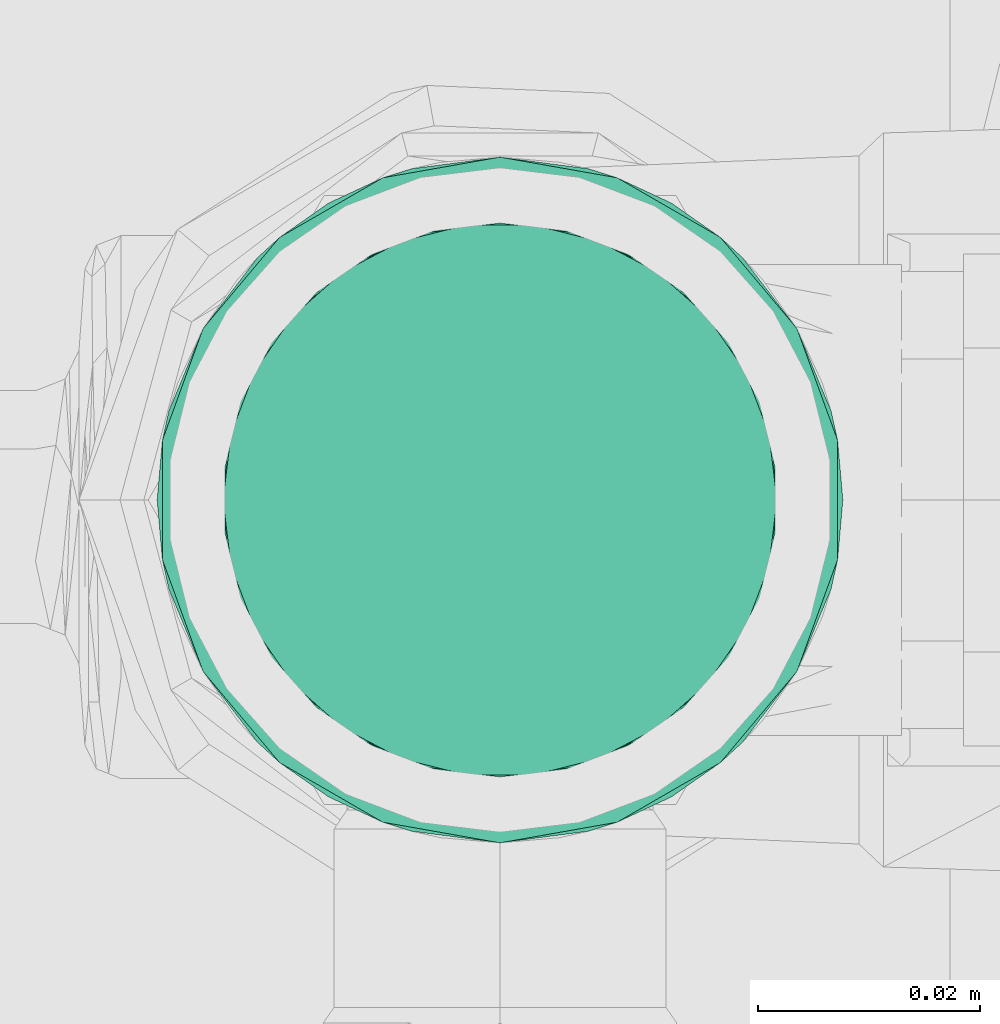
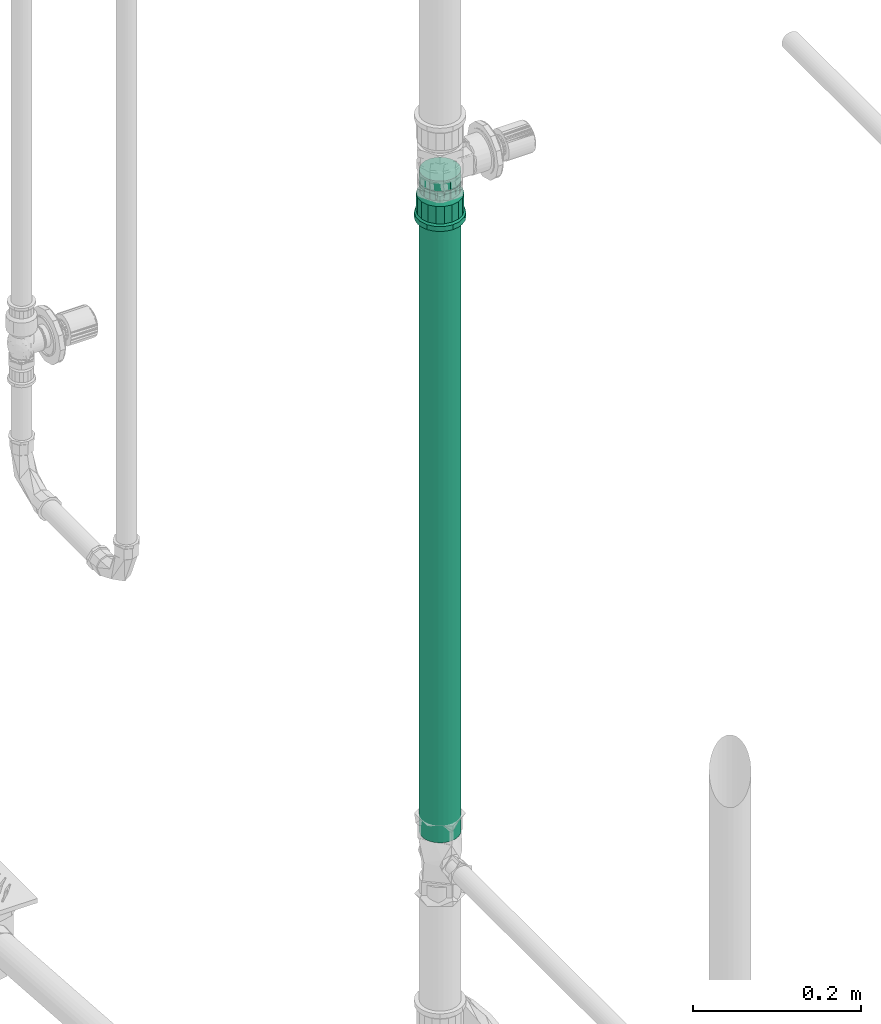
# One storey, part 89 of 589: 1 flow fitting, 1 flow segment.
"""IFC2X3 building model written with IfcOpenShell, lengths in millimetres."""

from ifc_helpers import new_model, entity, si_unit, converted_unit, derived_unit, direction, frame, frame_2d, origin, place, context, subcontext, project, spatial, circle, extrude, faceted_brep, source, transform, mapped, material, type_object, type_shapes, element, save


model = new_model("IFC2X3")

# Units and contexts
model_context = context("Model", 3, precision=0.01, world=origin(), true_north=direction((6.123031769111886e-17, 1.0)))
body_context = subcontext(model_context, "Body", "Model", "MODEL_VIEW")
ifc_project = project(units=[si_unit("LENGTHUNIT", "METRE", prefix="MILLI"), si_unit("AREAUNIT", "SQUARE_METRE"), si_unit("VOLUMEUNIT", "CUBIC_METRE"), converted_unit("PLANEANGLEUNIT", "DEGREE", entity("IfcRatioMeasure", 0.017453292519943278), si_unit("PLANEANGLEUNIT", "RADIAN"), dimensions=[0, 0, 0, 0, 0, 0, 0]), si_unit("MASSUNIT", "GRAM", prefix="KILO"), derived_unit("MASSDENSITYUNIT", [(si_unit("MASSUNIT", "GRAM", prefix="KILO"), 1), (si_unit("LENGTHUNIT", "METRE"), -3)]), derived_unit("IONCONCENTRATIONUNIT", [(si_unit("MASSUNIT", "GRAM", prefix="KILO"), 1), (si_unit("LENGTHUNIT", "METRE"), -3)]), derived_unit("MOMENTOFINERTIAUNIT", [(si_unit("LENGTHUNIT", "METRE"), 4)]), si_unit("TIMEUNIT", "SECOND"), si_unit("FREQUENCYUNIT", "HERTZ"), si_unit("THERMODYNAMICTEMPERATUREUNIT", "DEGREE_CELSIUS"), derived_unit("THERMALTRANSMITTANCEUNIT", [(si_unit("MASSUNIT", "GRAM", prefix="KILO"), 1), (si_unit("THERMODYNAMICTEMPERATUREUNIT", "KELVIN"), -1), (si_unit("TIMEUNIT", "SECOND"), -3)]), derived_unit("THERMALCONDUCTANCEUNIT", [(si_unit("MASSUNIT", "GRAM", prefix="KILO"), 1), (si_unit("THERMODYNAMICTEMPERATUREUNIT", "KELVIN"), -1), (si_unit("TIMEUNIT", "SECOND"), -3), (si_unit("LENGTHUNIT", "METRE"), 1)]), derived_unit("VOLUMETRICFLOWRATEUNIT", [(si_unit("LENGTHUNIT", "METRE"), 3), (si_unit("TIMEUNIT", "SECOND"), -1)]), derived_unit("MASSFLOWRATEUNIT", [(si_unit("MASSUNIT", "GRAM", prefix="KILO"), 1), (si_unit("TIMEUNIT", "SECOND"), -1)]), derived_unit("ROTATIONALFREQUENCYUNIT", [(si_unit("TIMEUNIT", "SECOND"), -1)]), si_unit("ELECTRICCURRENTUNIT", "AMPERE"), si_unit("ELECTRICVOLTAGEUNIT", "VOLT"), si_unit("POWERUNIT", "WATT"), si_unit("FORCEUNIT", "NEWTON", prefix="KILO"), si_unit("ILLUMINANCEUNIT", "LUX"), si_unit("LUMINOUSFLUXUNIT", "LUMEN"), si_unit("LUMINOUSINTENSITYUNIT", "CANDELA"), derived_unit("USERDEFINED", [(si_unit("MASSUNIT", "GRAM", prefix="KILO"), -1), (si_unit("LENGTHUNIT", "METRE"), -2), (si_unit("TIMEUNIT", "SECOND"), 3), (si_unit("LUMINOUSFLUXUNIT", "LUMEN"), 1)]), derived_unit("USERDEFINED", [(si_unit("MASSUNIT", "GRAM", prefix="KILO"), 1), (si_unit("TIMEUNIT", "SECOND"), -3), (si_unit("LENGTHUNIT", "METRE"), 3), (si_unit("ELECTRICCURRENTUNIT", "AMPERE"), -2)]), derived_unit("SOUNDPOWERUNIT", [(si_unit("MASSUNIT", "GRAM", prefix="KILO"), 1), (si_unit("TIMEUNIT", "SECOND"), -3), (si_unit("LENGTHUNIT", "METRE"), 2)]), derived_unit("SOUNDPRESSUREUNIT", [(si_unit("MASSUNIT", "GRAM", prefix="KILO"), 1), (si_unit("LENGTHUNIT", "METRE"), -1), (si_unit("TIMEUNIT", "SECOND"), -2)]), derived_unit("LINEARVELOCITYUNIT", [(si_unit("LENGTHUNIT", "METRE"), 1), (si_unit("TIMEUNIT", "SECOND"), -1)]), si_unit("PRESSUREUNIT", "PASCAL"), derived_unit("USERDEFINED", [(si_unit("MASSUNIT", "GRAM", prefix="KILO"), 1), (si_unit("LENGTHUNIT", "METRE"), -2), (si_unit("TIMEUNIT", "SECOND"), -2)]), derived_unit("LINEARFORCEUNIT", [(si_unit("MASSUNIT", "GRAM", prefix="KILO"), 1), (si_unit("TIMEUNIT", "SECOND"), -2)]), derived_unit("PLANARFORCEUNIT", [(si_unit("MASSUNIT", "GRAM", prefix="KILO"), 1), (si_unit("LENGTHUNIT", "METRE"), -1), (si_unit("TIMEUNIT", "SECOND"), -2)]), derived_unit("SPECIFICHEATCAPACITYUNIT", [(si_unit("THERMODYNAMICTEMPERATUREUNIT", "KELVIN"), -1), (si_unit("LENGTHUNIT", "METRE"), 2), (si_unit("TIMEUNIT", "SECOND"), -2)]), derived_unit("HEATINGVALUEUNIT", [(si_unit("LENGTHUNIT", "METRE"), 2), (si_unit("TIMEUNIT", "SECOND"), -2)]), derived_unit("VAPORPERMEABILITYUNIT", [(si_unit("LENGTHUNIT", "METRE"), -1), (si_unit("TIMEUNIT", "SECOND"), 1)]), derived_unit("DYNAMICVISCOSITYUNIT", [(si_unit("MASSUNIT", "GRAM", prefix="KILO"), 1), (si_unit("TIMEUNIT", "SECOND"), -1), (si_unit("LENGTHUNIT", "METRE"), -1)]), derived_unit("THERMALEXPANSIONCOEFFICIENTUNIT", [(si_unit("THERMODYNAMICTEMPERATUREUNIT", "KELVIN"), -1)]), derived_unit("MODULUSOFELASTICITYUNIT", [(si_unit("MASSUNIT", "GRAM", prefix="KILO"), 1), (si_unit("LENGTHUNIT", "METRE"), -1), (si_unit("TIMEUNIT", "SECOND"), -2)]), derived_unit("ISOTHERMALMOISTURECAPACITYUNIT", [(si_unit("LENGTHUNIT", "METRE"), 3), (si_unit("MASSUNIT", "GRAM", prefix="KILO"), -1)]), derived_unit("MOISTUREDIFFUSIVITYUNIT", [(si_unit("TIMEUNIT", "SECOND"), -1), (si_unit("LENGTHUNIT", "METRE"), 2)])], contexts=[model_context])

# Site, building, storey
site_placement = place(None, origin())
site = spatial("IfcSite", under=ifc_project, at=site_placement, Name="Default", CompositionType="ELEMENT")
building_placement = place(site_placement, origin())
building = spatial("IfcBuilding", under=site, at=building_placement, CompositionType="ELEMENT")
storey_placement = place(building_placement, frame((0.0, 0.0, 100.0)))
storey = spatial("IfcBuildingStorey", under=building, at=storey_placement, Name="TÉRREO", CompositionType="ELEMENT", Elevation=100.0)

# Flow segment
pipe_segment_type = type_object("IfcPipeSegmentType", Name="Tipos de tubos:PVC Marrom Soldável", PredefinedType="NOTDEFINED")
flow_segment_placement = place(storey_placement, origin())
element("IfcFlowSegment", 1, at=flow_segment_placement, inside=storey, type_object=pipe_segment_type, Name="Tipos de tubos:PVC Marrom Soldável", ObjectType="Tipos de tubos:PVC Marrom Soldável", context=body_context, shape_type="SweptSolid", body=[
    extrude(circle(Radius=25.0, at=frame_2d((-1.0828671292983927e-12, -6.767919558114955e-14), x_axis=(1.0, 0.0))), frame((-7562.714972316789, -528.9241377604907, 1232.5999999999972), z_axis=(0.0, 0.0, 1.0), x_axis=(-1.0, 0.0, 0.0)), (0.0, 0.0, 1.0), 945.9000000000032),
])

# Flow fitting
ifc_material = material(Name="PVC Marrom")
pipe_fitting_type = type_object("IfcPipeFittingType", Name="PVC Marrom Soldável_Adaptador Curto com Bolsa e Rosca Aninhado_Rodrigo MEP:Adaptador", PredefinedType="NOTDEFINED", material=ifc_material)
shared_shape = source(origin(), body_context, "Body", "Brep", [
    faceted_brep([(0.0, -15.475000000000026, -26.803486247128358), (0.0, -21.884954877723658, -21.88495487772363), (0.0, -12.499999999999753, -21.65063509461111), (0.0, -6.470476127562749, -24.14814565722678), (0.0, -8.010449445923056, -29.895404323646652), (0.0, -17.677669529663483, -17.6776695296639), (0.0, -26.803486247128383, -15.474999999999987), (0.0, -21.650635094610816, -12.500000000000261), (0.0, -24.148145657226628, -6.470476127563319), (0.0, -29.895404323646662, -8.01044944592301), (0.0, -25.0, 0.0), (0.0, -30.95, 0.0), (0.0, -24.14814565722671, 6.470476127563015), (0.0, -29.895404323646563, 8.010449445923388), (0.0, -21.65063509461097, 12.499999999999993), (0.0, -26.80348624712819, 15.475000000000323), (0.0, -17.6776695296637, 17.677669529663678), (0.0, -21.884954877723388, 21.884954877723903), (0.0, -12.500000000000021, 21.65063509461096), (0.0, -15.474999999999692, 26.803486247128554), (0.0, -6.4704761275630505, 24.1481456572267), (0.0, -8.010449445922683, 29.89540432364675), (0.0, 0.0, 25.0), (0.0, 0.0, 30.95), (0.0, 6.4704761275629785, 24.14814565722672), (0.0, 8.010449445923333, 29.895404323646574), (0.0, 12.49999999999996, 21.650635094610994), (0.0, 15.475000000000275, 26.803486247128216), (0.0, 17.677669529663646, 17.67766952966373), (0.0, 21.884954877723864, 21.884954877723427), (0.0, 21.65063509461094, 12.500000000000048), (0.0, 26.803486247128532, 15.474999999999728), (0.0, 29.89540432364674, 8.010449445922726), (0.0, 24.14814565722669, 6.4704761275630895), (0.0, 30.95, 0.0), (0.0, 25.0, 0.0), (0.0, 29.895404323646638, -8.010449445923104), (0.0, 24.148145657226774, -6.470476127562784), (0.0, 26.803486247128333, -15.475000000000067), (0.0, 21.6506350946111, -12.499999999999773), (0.0, 21.884954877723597, -21.884954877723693), (0.0, 17.677669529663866, -17.67766952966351), (0.0, 15.474999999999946, -26.803486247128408), (0.0, 12.500000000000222, -21.650635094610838), (0.0, 8.010449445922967, -29.895404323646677), (0.0, 6.470476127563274, -24.148145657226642), (0.0, 0.0, -30.95), (0.0, 0.0, -25.0), (7.0, 29.083191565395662, 10.586334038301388), (7.0, 29.880651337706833, 6.064083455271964), (7.0, 30.016595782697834, 5.29316701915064), (7.0, 19.590362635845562, 23.350189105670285), (7.0, 23.70796650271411, 19.895598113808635), (7.0, 26.395579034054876, 15.24096607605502), (7.0, 10.421885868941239, 28.6425895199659), (7.0, 5.3710129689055, 30.480398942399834), (7.0, 30.95, 0.0), (7.0, 15.472758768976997, 26.804780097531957), (7.0, -15.479482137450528, 26.80089798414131), (7.0, -10.42907040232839, 28.639974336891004), (7.0, -5.37865866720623, 30.479050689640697), (7.0, -23.712956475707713, 19.889650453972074), (7.0, -19.596219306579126, 23.345274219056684), (7.0, -30.95, 0.0), (7.0, -29.08584618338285, 10.57903832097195), (7.0, -26.39940132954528, 15.234344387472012), (7.0, -0.0038228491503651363, 30.47972481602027), (7.0, -29.08584618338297, -10.579038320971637), (7.0, -19.596219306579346, -23.3452742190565), (7.0, -23.71295647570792, -19.88965045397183), (7.0, -26.39940132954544, -15.234344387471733), (7.0, -10.429070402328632, -28.639974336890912), (7.0, -5.378658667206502, -30.47905068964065), (7.0, -15.47948213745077, -26.800897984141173), (7.0, 30.0165957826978, -5.2931670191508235), (7.0, 15.472758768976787, -26.804780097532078), (7.0, 10.421885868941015, -28.642589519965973), (7.0, 5.3710129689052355, -30.480398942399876), (7.0, 23.707966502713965, -19.895598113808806), (7.0, 19.590362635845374, -23.350189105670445), (7.0, 29.88065131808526, -6.064083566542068), (7.0, 29.083191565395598, -10.58633403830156), (7.0, 26.395579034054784, -15.240966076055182), (7.0, -0.003822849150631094, -30.479724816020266), (34.4499999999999, 26.875116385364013, 9.782030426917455), (9.400000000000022, 27.737468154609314, 4.8912625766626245), (9.400000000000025, 26.87493630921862, 9.782525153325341), (9.400000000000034, 14.297928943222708, 24.769522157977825), (34.4499999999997, 14.299296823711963, 24.768732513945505), (9.40000000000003, 18.102887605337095, 21.577234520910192), (34.4499999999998, 21.908523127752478, 18.384140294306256), (34.44999999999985, 24.391819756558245, 14.083085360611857), (9.400000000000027, 24.391391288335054, 14.083736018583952), (9.400000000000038, 9.63056335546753, 26.467788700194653), (9.400000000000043, 4.963197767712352, 28.16605524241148), (34.44999999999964, 4.965271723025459, 28.165689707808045), (9.400000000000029, 21.907846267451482, 18.384946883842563), (34.44999999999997, 27.796398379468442, 4.557325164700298), (9.40000000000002, 28.600000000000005, 0.0), (34.44999999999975, 18.103909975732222, 21.57643640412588), (34.44999999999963, -0.0011994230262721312, 28.165478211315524), (9.400000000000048, -0.0035325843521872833, 28.165432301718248), (34.44999999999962, -4.967670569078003, 28.165266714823), (34.44999999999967, 9.632284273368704, 26.46721111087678), (9.400000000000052, -4.970262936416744, 28.164809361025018), (9.40000000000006, -14.304141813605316, 24.765934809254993), (34.449999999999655, -14.301406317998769, 24.76751455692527), (9.400000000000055, -9.63720237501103, 26.465372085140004), (34.449999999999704, -18.105747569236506, 21.574894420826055), (34.44999999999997, 27.73755819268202, 4.891015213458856), (9.400000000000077, -26.87738936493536, 9.77578339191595), (34.450000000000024, -28.600000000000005, 0.0), (34.449999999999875, -26.875949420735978, 9.779741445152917), (9.400000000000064, -18.108299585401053, 21.57269281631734), (9.40000000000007, -21.91245735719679, 18.379450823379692), (34.449999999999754, -21.910088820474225, 18.38227428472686), (34.44999999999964, -9.634538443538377, 26.466390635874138), (9.400000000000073, -24.394923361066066, 14.077617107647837), (34.450000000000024, 28.600000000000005, 0.0), (9.40000000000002, -28.600000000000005, 0.0), (34.44999999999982, -24.3930191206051, 14.081007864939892), (34.45000000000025, -26.87594942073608, -9.77974144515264), (9.40000000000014, -26.87738936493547, -9.77578339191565), (34.45000000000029, 18.103909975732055, -21.576436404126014), (34.45000000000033, 14.299296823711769, -24.76873251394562), (9.400000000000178, 18.10288760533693, -21.577234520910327), (34.450000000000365, -21.910088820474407, -18.38227428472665), (9.400000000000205, -21.912457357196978, -18.37945082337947), (9.400000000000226, -18.108299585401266, -21.57269281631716), (34.45000000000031, -24.393019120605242, -14.081007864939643), (9.400000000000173, -24.394923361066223, -14.077617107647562), (9.40000000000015, 21.907846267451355, -18.384946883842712), (9.40000000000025, -0.0035325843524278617, -28.165432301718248), (9.400000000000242, 4.963197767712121, -28.166055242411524), (34.45000000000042, -0.0011994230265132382, -28.165478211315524), (34.45000000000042, -14.301406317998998, -24.76751455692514), (9.400000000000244, -14.304141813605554, -24.765934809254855), (9.40000000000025, -9.637202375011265, -26.46537208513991), (34.45000000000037, 9.632284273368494, -26.467211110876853), (34.45000000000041, 4.965271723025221, -28.165689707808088), (9.400000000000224, 9.63056335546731, -26.467788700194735), (9.400000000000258, -4.970262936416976, -28.164809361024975), (34.45000000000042, -9.634538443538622, -26.46639063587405), (34.45000000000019, 24.391819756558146, -14.083085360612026), (9.40000000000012, 24.391391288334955, -14.083736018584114), (9.400000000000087, 26.874936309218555, -9.782525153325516), (34.450000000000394, -18.1057475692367, -21.574894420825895), (34.450000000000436, -4.967670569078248, -28.16526671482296), (34.45000000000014, 26.875116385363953, -9.782030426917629), (34.450000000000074, 27.796398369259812, -4.557325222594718), (9.400000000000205, 14.297928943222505, -24.769522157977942), (9.400000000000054, 27.737468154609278, -4.8912625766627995), (34.450000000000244, 21.908523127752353, -18.38414029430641), (34.45000000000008, 27.737558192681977, -4.891015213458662), (69.0, 0.0, -25.0), (69.0, 6.4704761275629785, -24.14814565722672), (69.0, 12.49999999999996, -21.650635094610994), (69.0, 17.677669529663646, -17.67766952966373), (69.0, 21.650635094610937, -12.500000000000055), (69.0, 24.14814565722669, -6.4704761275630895), (69.0, 25.0, 0.0), (69.0, 24.148145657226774, 6.470476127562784), (69.0, 21.650635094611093, 12.499999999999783), (69.0, 17.67766952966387, 17.677669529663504), (69.0, 12.500000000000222, 21.650635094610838), (69.0, 6.470476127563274, 24.148145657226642), (69.0, 0.0, 25.0), (69.0, -6.470476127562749, 24.14814565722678), (69.0, -12.499999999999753, 21.65063509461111), (69.0, -17.677669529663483, 17.6776695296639), (69.0, -21.650635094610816, 12.500000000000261), (69.0, -24.148145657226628, 6.470476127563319), (69.0, -25.0, 0.0), (69.0, -24.14814565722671, -6.470476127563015), (69.0, -21.650635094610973, -12.499999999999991), (69.0, -17.6776695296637, -17.677669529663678), (69.0, -12.500000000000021, -21.65063509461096), (69.0, -6.4704761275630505, -24.1481456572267), (40.499999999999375, 8.41832461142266, 23.136178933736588), (40.49999999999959, 19.1502152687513, 16.070757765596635), (40.49999999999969, 21.321146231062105, 12.310958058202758), (40.49999999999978, 23.492077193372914, 8.551158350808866), (40.49999999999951, 15.824202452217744, 18.861218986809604), (40.49999999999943, 12.498189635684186, 21.651680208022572), (40.49999999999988, 24.246038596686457, 4.275579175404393), (40.49999999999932, 4.3384595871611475, 24.620677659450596), (40.499999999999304, -0.003087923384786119, 24.620133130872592), (40.499999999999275, -4.344635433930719, 24.61958860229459), (40.49999999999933, -12.503620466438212, 21.648544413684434), (40.49999999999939, -15.828933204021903, 18.85724896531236), (40.49999999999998, 25.0, 0.0), (40.49999999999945, -19.154245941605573, 16.065953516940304), (40.49999999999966, -23.494221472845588, 8.545265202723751), (40.499999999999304, -8.424127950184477, 23.13406650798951), (40.49999999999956, -21.324233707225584, 12.305609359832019), (40.49999999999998, -25.0, 0.0), (40.500000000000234, -19.15424594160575, -16.065953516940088), (40.50000000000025, 12.498189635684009, -21.65168020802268), (40.500000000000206, 15.824202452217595, -18.861218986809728), (40.500000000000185, -21.32423370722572, -12.305609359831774), (40.50000000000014, -23.494221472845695, -8.545265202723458), (40.50000000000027, -15.82893320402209, -18.8572489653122), (40.5000000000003, -12.503620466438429, -21.64854441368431), (40.50000000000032, -8.42412795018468, -23.13406650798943), (40.50000000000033, -4.344635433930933, -24.619588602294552), (40.50000000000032, -0.00308792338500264, -24.620133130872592), (40.5000000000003, 4.3384595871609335, -24.62067765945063), (40.50000000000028, 8.41832461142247, -23.136178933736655), (40.50000000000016, 19.150215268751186, -16.070757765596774), (40.50000000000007, 23.49207719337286, -8.551158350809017), (40.500000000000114, 21.321146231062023, -12.31095805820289), (40.50000000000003, 24.246038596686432, -4.275579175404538), (9.40000000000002, 24.14814565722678, -6.470476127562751), (34.450000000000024, 24.14814565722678, -6.470476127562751), (34.450000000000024, 25.0, 0.0), (9.40000000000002, 25.0, 0.0), (7.0, 25.0, 0.0), (7.0, 24.14814565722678, -6.470476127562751), (9.40000000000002, 21.650635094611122, -12.499999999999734), (34.450000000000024, 21.650635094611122, -12.499999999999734), (7.0, 21.650635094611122, -12.499999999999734), (34.450000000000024, 12.500000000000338, -21.65063509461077), (34.450000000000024, 17.677669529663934, -17.677669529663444), (9.40000000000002, 17.677669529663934, -17.677669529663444), (7.0, 17.677669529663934, -17.677669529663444), (7.0, 12.500000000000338, -21.65063509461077), (9.40000000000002, 12.500000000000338, -21.65063509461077), (34.450000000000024, 6.470476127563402, -24.148145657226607), (7.0, 6.470476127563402, -24.148145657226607), (9.40000000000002, 6.470476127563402, -24.148145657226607), (34.450000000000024, 0.0, -25.0), (7.0, 0.0, -25.0), (9.40000000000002, 0.0, -25.0), (9.40000000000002, -6.470476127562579, -24.148145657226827), (34.450000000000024, -6.470476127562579, -24.148145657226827), (7.0, -6.470476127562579, -24.148145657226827), (9.40000000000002, -12.49999999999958, -21.65063509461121), (34.450000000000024, -12.49999999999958, -21.65063509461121), (7.0, -12.49999999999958, -21.65063509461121), (9.40000000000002, -24.148145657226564, -6.470476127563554), (7.0, -24.14814565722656, -6.470476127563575), (7.0, -25.0, 0.0), (9.40000000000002, -25.0, 0.0), (34.450000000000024, -25.0, 0.0), (34.450000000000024, -24.148145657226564, -6.470476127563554), (9.40000000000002, -17.677669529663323, -17.677669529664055), (34.450000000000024, -17.677669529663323, -17.677669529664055), (7.0, -17.677669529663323, -17.677669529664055), (9.40000000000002, -21.650635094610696, -12.500000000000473), (34.450000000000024, -21.650635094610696, -12.500000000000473), (7.0, -21.650635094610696, -12.500000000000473), (9.40000000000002, -24.148145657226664, 6.470476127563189), (34.450000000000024, -24.148145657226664, 6.470476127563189), (7.0, -24.148145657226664, 6.470476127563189), (9.40000000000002, -21.65063509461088, 12.50000000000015), (34.450000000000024, -21.65063509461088, 12.50000000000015), (7.0, -21.65063509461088, 12.50000000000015), (34.450000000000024, -12.49999999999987, 21.650635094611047), (34.450000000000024, -17.677669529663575, 17.677669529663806), (9.40000000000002, -17.677669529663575, 17.677669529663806), (7.0, -17.677669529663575, 17.677669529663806), (7.0, -12.49999999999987, 21.650635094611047), (9.40000000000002, -12.49999999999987, 21.650635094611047), (34.450000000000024, -6.470476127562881, 24.14814565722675), (7.0, -6.470476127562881, 24.14814565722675), (9.40000000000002, -6.470476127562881, 24.14814565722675), (34.450000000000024, 0.0, 25.0), (7.0, 0.0, 25.0), (9.40000000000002, 0.0, 25.0), (34.450000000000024, 12.50000000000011, 21.650635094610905), (9.40000000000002, 12.50000000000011, 21.650635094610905), (7.0, 12.50000000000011, 21.650635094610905), (7.0, 17.677669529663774, 17.677669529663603), (9.40000000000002, 17.677669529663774, 17.677669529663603), (34.450000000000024, 17.677669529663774, 17.677669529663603), (34.450000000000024, 21.650635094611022, 12.499999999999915), (9.40000000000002, 21.650635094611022, 12.499999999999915), (7.0, 21.650635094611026, 12.499999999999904), (7.0, 24.14814565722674, 6.470476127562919), (9.40000000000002, 24.14814565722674, 6.470476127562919), (34.450000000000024, 24.14814565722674, 6.470476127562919), (34.450000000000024, 6.470476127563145, 24.148145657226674), (9.40000000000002, 6.470476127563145, 24.148145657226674), (7.0, 6.470476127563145, 24.148145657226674)], [[[0, 1, 2]], [[0, 2, 3]], [[3, 4, 0]], [[2, 1, 5]], [[6, 5, 1]], [[7, 5, 6]], [[8, 7, 6]], [[8, 6, 9]], [[8, 9, 10]], [[10, 9, 11]], [[12, 10, 11]], [[12, 11, 13]], [[14, 12, 13]], [[14, 13, 15]], [[16, 14, 15]], [[15, 17, 16]], [[17, 18, 16]], [[18, 17, 19]], [[18, 19, 20]], [[21, 20, 19]], [[20, 21, 22]], [[22, 21, 23]], [[23, 24, 22]], [[24, 23, 25]], [[24, 25, 26]], [[27, 26, 25]], [[27, 28, 26]], [[27, 29, 28]], [[30, 28, 29]], [[31, 30, 29]], [[32, 30, 31]], [[33, 30, 32]], [[33, 32, 34]], [[34, 35, 33]], [[36, 35, 34]], [[36, 37, 35]], [[37, 36, 38]], [[39, 37, 38]], [[39, 38, 40]], [[39, 40, 41]], [[40, 42, 41]], [[41, 42, 43]], [[43, 42, 44]], [[44, 45, 43]], [[46, 45, 44]], [[4, 47, 46]], [[46, 47, 45]], [[4, 3, 47]], [[32, 48, 49, 50]], [[51, 52, 29]], [[53, 48, 31, 52]], [[54, 25, 55]], [[48, 32, 31]], [[34, 50, 56]], [[27, 57, 51]], [[29, 27, 51]], [[29, 52, 31]], [[19, 58, 59]], [[21, 19, 59]], [[54, 57, 27]], [[25, 54, 27]], [[55, 25, 23]], [[32, 50, 34]], [[59, 60, 21]], [[61, 62, 17]], [[63, 64, 13]], [[65, 61, 15, 64]], [[11, 63, 13]], [[17, 62, 19]], [[66, 55, 23, 60]], [[21, 60, 23]], [[61, 17, 15]], [[19, 62, 58]], [[13, 64, 15]], [[67, 63, 9]], [[68, 69, 1]], [[70, 67, 6, 69]], [[71, 4, 72]], [[67, 9, 6]], [[63, 11, 9]], [[4, 71, 0]], [[0, 73, 68]], [[1, 69, 6]], [[36, 34, 74]], [[42, 75, 76]], [[71, 73, 0]], [[44, 42, 76]], [[72, 4, 46]], [[1, 0, 68]], [[76, 77, 44]], [[78, 79, 40]], [[36, 74, 80, 81]], [[82, 78, 38, 81]], [[36, 81, 38]], [[40, 79, 42]], [[83, 72, 46, 77]], [[44, 77, 46]], [[78, 40, 38]], [[42, 79, 75]], [[34, 56, 74]], [[84, 85, 86]], [[87, 88, 89]], [[90, 91, 92]], [[93, 94, 95]], [[92, 96, 90]], [[97, 98, 85]], [[96, 89, 99]], [[84, 86, 91]], [[100, 101, 102]], [[103, 93, 95]], [[93, 103, 87]], [[92, 91, 86]], [[101, 104, 102]], [[99, 89, 88]], [[105, 106, 107]], [[106, 105, 108]], [[85, 84, 109, 97]], [[95, 94, 100]], [[110, 111, 112]], [[113, 114, 115]], [[102, 104, 116]], [[112, 117, 110]], [[108, 113, 115]], [[107, 116, 104]], [[97, 118, 98]], [[108, 105, 113]], [[111, 110, 119]], [[90, 96, 99]], [[120, 114, 117]], [[120, 117, 112]], [[88, 87, 103]], [[94, 101, 100]], [[115, 114, 120]], [[116, 107, 106]], [[121, 111, 122]], [[123, 124, 125]], [[126, 127, 128]], [[129, 121, 130]], [[125, 131, 123]], [[121, 122, 130]], [[132, 133, 134]], [[135, 136, 137]], [[138, 139, 140]], [[122, 111, 119]], [[130, 127, 129]], [[137, 141, 142]], [[143, 144, 145]], [[146, 126, 128]], [[134, 147, 132]], [[142, 135, 137]], [[133, 139, 134]], [[139, 133, 140]], [[146, 136, 135]], [[148, 143, 145]], [[142, 141, 147]], [[98, 118, 149]], [[124, 150, 125]], [[138, 150, 124]], [[145, 151, 148]], [[128, 136, 146]], [[131, 144, 152]], [[151, 149, 153, 148]], [[143, 152, 144]], [[123, 131, 152]], [[132, 147, 141]], [[151, 98, 149]], [[129, 127, 126]], [[140, 150, 138]], [[154, 155, 156, 157, 158, 159, 160, 161, 162, 163, 164, 165, 166, 167, 168, 169, 170, 171, 172, 173, 174, 175, 176, 177]], [[165, 164, 178]], [[179, 163, 162]], [[180, 179, 162, 181]], [[164, 182, 183]], [[184, 181, 161]], [[178, 185, 165]], [[182, 163, 179]], [[186, 187, 166, 185]], [[165, 185, 166]], [[163, 182, 164]], [[168, 188, 189]], [[161, 160, 184]], [[160, 190, 184]], [[169, 191, 170]], [[161, 181, 162]], [[192, 171, 170]], [[167, 193, 168]], [[194, 192, 170, 191]], [[172, 171, 195]], [[187, 193, 167]], [[167, 166, 187]], [[168, 193, 188]], [[169, 168, 189]], [[189, 191, 169]], [[192, 195, 171]], [[164, 183, 178]], [[173, 172, 195]], [[196, 175, 174]], [[156, 197, 198]], [[199, 196, 174, 200]], [[176, 201, 202]], [[173, 195, 200]], [[203, 204, 177]], [[201, 175, 196]], [[205, 206, 154, 204]], [[157, 156, 198]], [[175, 201, 176]], [[176, 202, 203]], [[207, 197, 156]], [[173, 200, 174]], [[177, 176, 203]], [[157, 208, 158]], [[209, 159, 158]], [[210, 209, 158, 208]], [[211, 190, 160]], [[155, 154, 206]], [[155, 206, 207]], [[155, 207, 156]], [[198, 208, 157]], [[159, 209, 211]], [[159, 211, 160]], [[177, 204, 154]], [[212, 213, 214, 215, 216, 35, 37, 217]], [[218, 219, 213, 212, 217, 37, 39, 220]], [[221, 222, 223, 224, 41, 43, 225, 226]], [[218, 220, 39, 41, 224, 223, 222, 219]], [[227, 221, 226, 225, 43, 45, 228, 229]], [[230, 227, 229, 228, 45, 47, 231, 232]], [[233, 234, 230, 232, 231, 47, 3, 235]], [[236, 237, 234, 233, 235, 3, 2, 238]], [[239, 240, 8, 10, 241, 242, 243, 244]], [[245, 246, 237, 236, 238, 2, 5, 247]], [[248, 249, 246, 245, 247, 5, 7, 250]], [[248, 250, 7, 8, 240, 239, 244, 249]], [[251, 252, 243, 242, 241, 10, 12, 253]], [[254, 255, 252, 251, 253, 12, 14, 256]], [[257, 258, 259, 260, 16, 18, 261, 262]], [[254, 256, 14, 16, 260, 259, 258, 255]], [[263, 257, 262, 261, 18, 20, 264, 265]], [[266, 263, 265, 264, 20, 22, 267, 268]], [[269, 270, 271, 26, 28, 272, 273, 274]], [[275, 276, 277, 30, 33, 278, 279, 280]], [[273, 272, 28, 30, 277, 276, 275, 274]], [[280, 279, 278, 33, 35, 216, 215, 214]], [[281, 282, 283, 24, 26, 271, 270, 269]], [[282, 281, 266, 268, 267, 22, 24, 283]], [[122, 119, 63, 67]], [[151, 145, 81, 80, 74, 56, 98]], [[71, 72, 141, 137, 136, 73]], [[83, 77, 133, 132, 141, 72]], [[136, 128, 127, 69, 68, 73]], [[130, 122, 67, 70, 69, 127]], [[76, 75, 150, 140, 133, 77]], [[82, 81, 145, 144, 131, 78]], [[131, 125, 150, 75, 79, 78]], [[85, 98, 56, 50, 49, 48, 86]], [[92, 86, 48, 53, 52, 96]], [[89, 96, 52, 51, 57, 87]], [[57, 54, 55, 94, 93, 87]], [[66, 60, 104, 101, 94, 55]], [[58, 105, 107, 104, 60, 59]], [[63, 119, 110, 64]], [[61, 65, 64, 110, 117, 114]], [[58, 62, 61, 114, 113, 105]], [[221, 227, 230, 234, 237, 246, 249, 244, 243, 252, 255, 258, 257, 263, 266, 281, 269, 274, 275, 280, 214, 213, 219, 222]], [[190, 118, 97, 109]], [[109, 84, 184]], [[184, 84, 181]], [[178, 95, 185]], [[183, 88, 103]], [[179, 90, 99]], [[182, 88, 183]], [[181, 84, 91]], [[178, 183, 103]], [[103, 95, 178]], [[186, 185, 100]], [[91, 90, 180]], [[100, 102, 186]], [[180, 181, 91]], [[99, 88, 182]], [[182, 179, 99]], [[102, 187, 186]], [[189, 115, 191]], [[187, 102, 116]], [[180, 90, 179]], [[100, 185, 95]], [[193, 106, 188]], [[111, 195, 192]], [[191, 115, 120]], [[194, 112, 192]], [[188, 106, 108]], [[194, 191, 120]], [[120, 112, 194]], [[184, 190, 109]], [[108, 115, 189]], [[112, 111, 192]], [[189, 188, 108]], [[116, 106, 193]], [[193, 187, 116]], [[111, 200, 195]], [[203, 142, 204]], [[201, 146, 202]], [[199, 129, 196]], [[142, 147, 204]], [[146, 135, 202]], [[205, 134, 206]], [[129, 126, 196]], [[196, 126, 201]], [[121, 200, 111]], [[121, 129, 199]], [[201, 126, 146]], [[206, 139, 207]], [[204, 147, 205]], [[135, 142, 203]], [[200, 121, 199]], [[134, 139, 206]], [[202, 135, 203]], [[138, 124, 197]], [[207, 138, 197]], [[211, 153, 190]], [[210, 143, 209]], [[190, 153, 149, 118]], [[143, 148, 209]], [[198, 123, 208]], [[123, 152, 208]], [[208, 152, 210]], [[138, 207, 139]], [[198, 124, 123]], [[152, 143, 210]], [[148, 153, 211]], [[197, 124, 198]], [[147, 134, 205]], [[209, 148, 211]]]),
])
type_shapes(pipe_fitting_type, [shared_shape])
flow_fitting_placement = place(storey_placement, frame((-7562.714972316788, -528.9241377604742, 2125.0), z_axis=(1.0, 0.0, 0.0), x_axis=(0.0, 0.0, 1.0)))
element("IfcFlowFitting", 2, at=flow_fitting_placement, inside=storey, type_object=pipe_fitting_type, material=ifc_material, Name="PVC Marrom Soldável_Adaptador Curto com Bolsa e Rosca Aninhado_Rodrigo MEP:Adaptador", ObjectType="PVC Marrom Soldável_Adaptador Curto com Bolsa e Rosca Aninhado_Rodrigo MEP:Adaptador", context=body_context, shape_type="MappedRepresentation", body=[
    mapped(shared_shape, transform((0.0, 0.0, 0.0), scale=1.0)),
])

save(model, "model.ifc")
